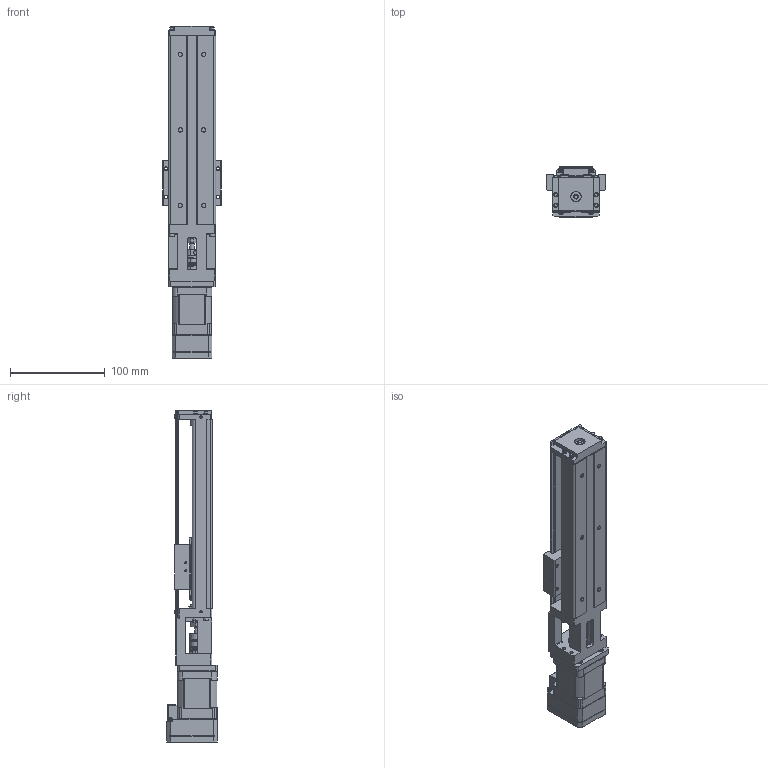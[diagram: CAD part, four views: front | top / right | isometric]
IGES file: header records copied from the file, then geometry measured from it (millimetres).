
Start section: SolidWorks IGES file using analytic representation for surfaces
Global section: file name: \\MYODRIVE\Public\CAD Files\Integrated-Actuators\PA-Series\PA26\PA26-A-02-110-S-10A0-17L30-X.IGS; native system: SolidWorks 2015; preprocessor: SolidWorks 2015; author: RENDER; date: 150106.093206; units: millimetre
Bounding box: 62 x 53 x 351.3 mm (x, y, z)
Surface area: 141674.4 mm2 (no closed solid volume)
Topology: 0 solids, 0 shells, 1806 faces, 20494 edges, 20445 vertices
Faces by surface type: bspline 1080, revolution 726
